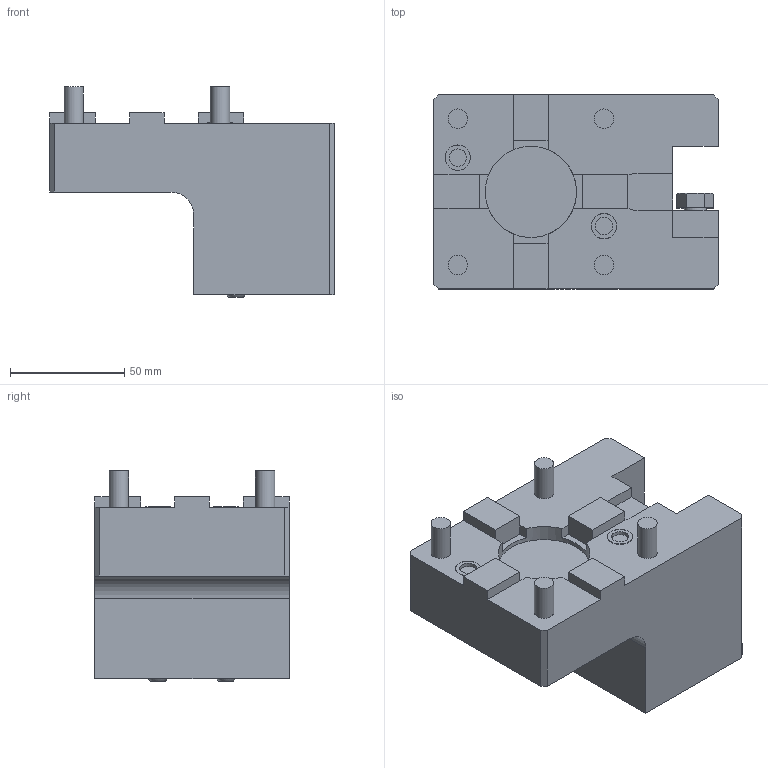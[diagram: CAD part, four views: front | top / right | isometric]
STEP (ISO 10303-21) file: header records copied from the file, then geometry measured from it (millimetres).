
FILE_DESCRIPTION(/* description */ (''),/* implementation_level */ '2;1');
FILE_NAME(/* name */ '197943-UNI',/* time_stamp */ '2021-12-15T11:52:58+01:00',/* author */ (''),/* organization */ (''),/* preprocessor_version */ 'ST-DEVELOPER v16.5',/* originating_system */ 'HiCAD 2017 2201.0 Build 268',/* authorisation */ '');
FILE_SCHEMA (('AUTOMOTIVE_DESIGN { 1 0 10303 214 1 1 1 1 }'));
Length unit declared in the file: millimetre
Products named in the file (2): Root; Teil
Assembly tree (1 placements, depth 2):
  Root
    Teil
Bounding box: 124.5 x 85 x 92 mm (x, y, z)
Volume: 505124.3 mm3; surface area: 58889.7 mm2
Topology: 1 solids, 1 shells, 180 faces, 424 edges, 272 vertices
Faces by surface type: plane 142, cylinder 26, cone 6, torus 4, sphere 2
Full cylindrical faces by diameter (mm): 6 x2, 7.65 x2, 8.5 x4, 9.6 x2, 11.01 x2, 11.1 x2, 16 x4, 18 x4, 40 x1
Entity records: 8560 total; most frequent: DIRECTION 841, CARTESIAN_POINT 813, PRESENTATION_STYLE_ASSIGNMENT 745, COLOUR_RGB 745, DRAUGHTING_PRE_DEFINED_CURVE_FONT 744, CURVE_STYLE 744, OVER_RIDING_STYLED_ITEM 744, ORIENTED_EDGE 744
